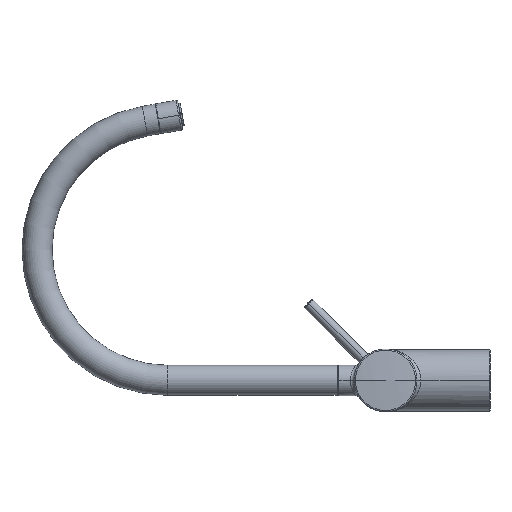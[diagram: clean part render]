
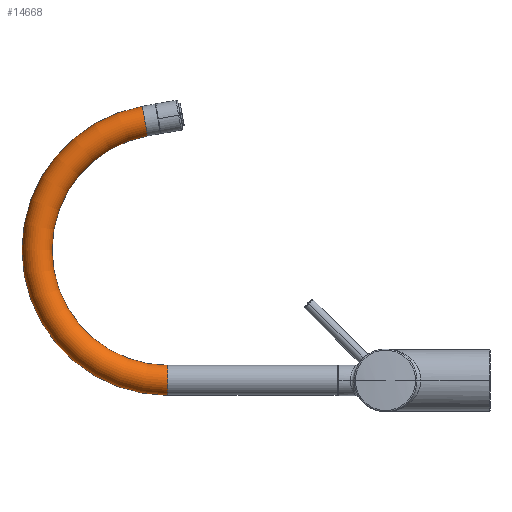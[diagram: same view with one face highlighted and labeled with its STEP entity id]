
A CAD part, left-side view. The second image highlights one B-rep face of the part: STEP entity #14668.
In plain terms, the highlighted toroidal (fillet/blend) face has major radius 100 mm and minor radius 11.5 mm.
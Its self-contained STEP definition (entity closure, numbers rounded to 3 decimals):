
#14497=CARTESIAN_POINT('',(0.,246.825,0.));
#14498=DIRECTION('',(0.,1.,0.));
#14499=DIRECTION('',(0.,0.,-1.));
#14500=AXIS2_PLACEMENT_3D('',#14497,#14498,#14499);
#14502=CARTESIAN_POINT('',(0.,246.825,100.));
#14503=DIRECTION('',(1.,0.,0.));
#14504=DIRECTION('',(0.,0.,-1.));
#14505=AXIS2_PLACEMENT_3D('',#14502,#14503,#14504);
#14512=CARTESIAN_POINT('',(0.,246.825,100.));
#14513=DIRECTION('',(1.,0.,0.));
#14514=DIRECTION('',(0.,0.,-1.));
#14515=AXIS2_PLACEMENT_3D('',#14512,#14513,#14514);
#14526=CARTESIAN_POINT('',(0.,264.19,198.481));
#14527=DIRECTION('',(0.,-0.985,0.174));
#14528=DIRECTION('',(0.,0.174,0.985));
#14529=AXIS2_PLACEMENT_3D('',#14526,#14527,#14528);
#14549=CARTESIAN_POINT('',(0.,246.825,11.5));
#14550=CARTESIAN_POINT('',(0.,246.825,-11.5));
#14551=VERTEX_POINT('',#14549);
#14552=VERTEX_POINT('',#14550);
#14553=CARTESIAN_POINT('',(0.,262.193,187.155));
#14554=CARTESIAN_POINT('',(0.,266.187,209.806));
#14555=VERTEX_POINT('',#14553);
#14556=VERTEX_POINT('',#14554);
#14654=CARTESIAN_POINT('',(0.,246.825,100.));
#14655=DIRECTION('',(1.,0.,0.));
#14656=DIRECTION('',(0.,0.,1.));
#14657=AXIS2_PLACEMENT_3D('',#14654,#14655,#14656);
#14658=TOROIDAL_SURFACE('',#14657,100.,11.5);
#14659=ORIENTED_EDGE('',*,*,#14645,.F.);
#14661=ORIENTED_EDGE('',*,*,#14660,.T.);
#14663=ORIENTED_EDGE('',*,*,#14662,.T.);
#14665=ORIENTED_EDGE('',*,*,#14664,.F.);
#14666=EDGE_LOOP('',(#14659,#14661,#14663,#14665));
#14667=FACE_OUTER_BOUND('',#14666,.F.);
#14668=ADVANCED_FACE('',(#14667),#14658,.T.);
#14501=CIRCLE('',#14500,11.5);
#14506=CIRCLE('',#14505,111.5);
#14516=CIRCLE('',#14515,88.5);
#14530=CIRCLE('',#14529,11.5);
#14645=EDGE_CURVE('',#14552,#14551,#14501,.T.);
#14660=EDGE_CURVE('',#14552,#14556,#14506,.T.);
#14662=EDGE_CURVE('',#14556,#14555,#14530,.T.);
#14664=EDGE_CURVE('',#14551,#14555,#14516,.T.);
